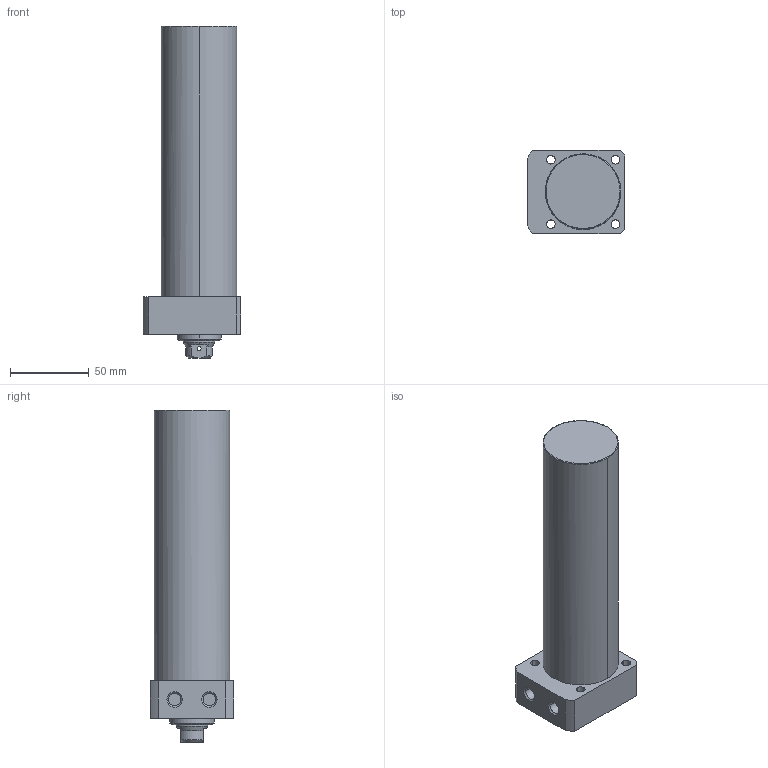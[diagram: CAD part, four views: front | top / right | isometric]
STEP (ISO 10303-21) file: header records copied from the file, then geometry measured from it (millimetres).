
FILE_DESCRIPTION((' '),'2;1');
FILE_NAME( 'TLLR-048CB-145.STEP.stp', '2025-10-24T16:34:35', (' '), ('--- Datakit www.datakit.com---'), ' Datakit CrossCadWare V2024.1 Dec 21 2023', 'Mastercam 2025', ' ');
FILE_SCHEMA(('AUTOMOTIVE_DESIGN { 1 0 10303 214 1 1 1 1 }'));
Length unit declared in the file: millimetre
Products named in the file (1): TLLR-048CB-145
Bounding box: 62 x 53 x 211 mm (x, y, z)
Volume: 389558 mm3; surface area: 41339 mm2
Topology: 1 solids, 1 shells, 67 faces, 197 edges, 136 vertices
Faces by surface type: cylinder 32, plane 19, cone 14, torus 2
Entity records: 3066 total; most frequent: CARTESIAN_POINT 1147, DIRECTION 426, ORIENTED_EDGE 390, EDGE_CURVE 195, AXIS2_PLACEMENT_3D 179, VERTEX_POINT 136, CIRCLE 111, EDGE_LOOP 85
